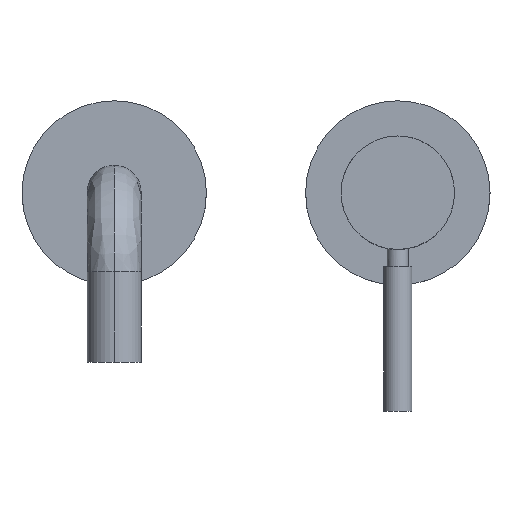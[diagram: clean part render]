
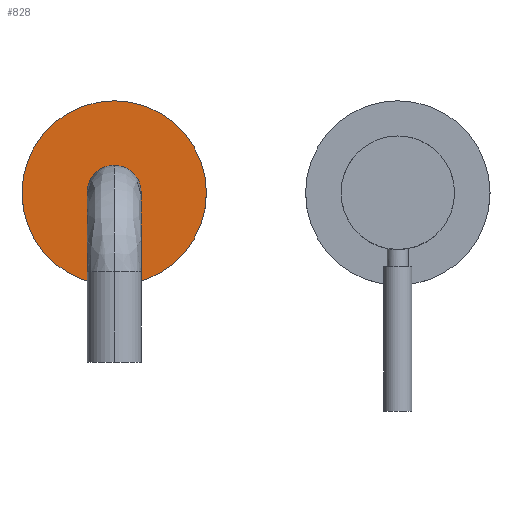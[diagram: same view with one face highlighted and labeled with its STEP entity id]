
A CAD part, top view. The second image highlights one B-rep face of the part: STEP entity #828.
In plain terms, the highlighted planar face has unit normal (0, 0, 1).
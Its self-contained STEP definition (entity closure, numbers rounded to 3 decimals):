
#828 = ADVANCED_FACE('',(#829),#849,.T.);
#829 = FACE_BOUND('',#830,.T.);
#830 = EDGE_LOOP('',(#831,#842));
#831 = ORIENTED_EDGE('',*,*,#832,.T.);
#832 = EDGE_CURVE('',#833,#835,#837,.T.);
#833 = VERTEX_POINT('',#834);
#834 = CARTESIAN_POINT('',(-32.5,0.,
    5.));
#835 = VERTEX_POINT('',#836);
#836 = CARTESIAN_POINT('',(32.5,0.,
    5.));
#837 = CIRCLE('',#838,32.5);
#838 = AXIS2_PLACEMENT_3D('',#839,#840,#841);
#839 = CARTESIAN_POINT('',(0.,0.,
    5.));
#840 = DIRECTION('',(0.,0.,1.));
#841 = DIRECTION('',(1.,0.,0.));
#842 = ORIENTED_EDGE('',*,*,#843,.T.);
#843 = EDGE_CURVE('',#835,#833,#844,.T.);
#844 = CIRCLE('',#845,32.5);
#845 = AXIS2_PLACEMENT_3D('',#846,#847,#848);
#846 = CARTESIAN_POINT('',(0.,0.,
    5.));
#847 = DIRECTION('',(0.,0.,1.));
#848 = DIRECTION('',(1.,0.,0.));
#849 = PLANE('',#850);
#850 = AXIS2_PLACEMENT_3D('',#851,#852,#853);
#851 = CARTESIAN_POINT('',(32.5,0.,
    5.));
#852 = DIRECTION('',(0.,0.,1.));
#853 = DIRECTION('',(0.,1.,0.));
